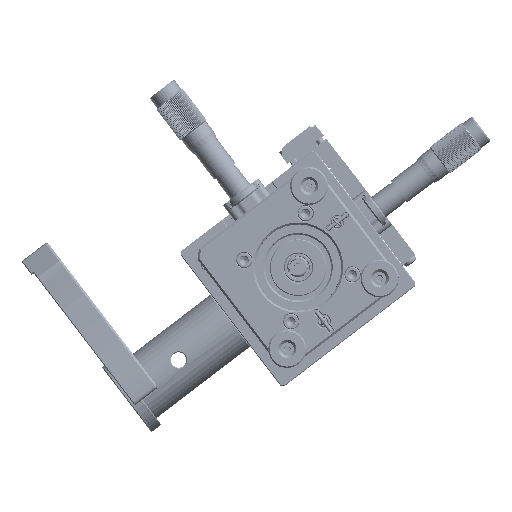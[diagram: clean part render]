
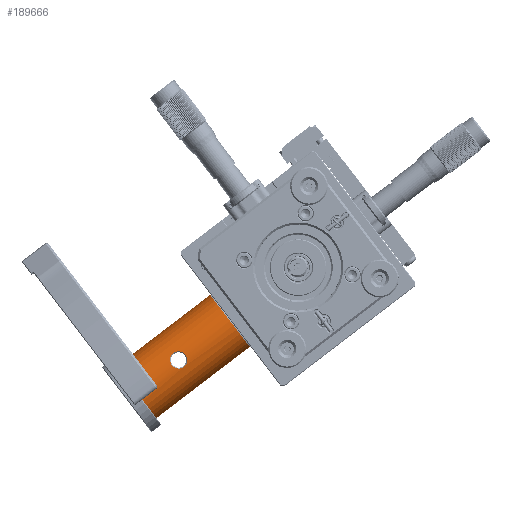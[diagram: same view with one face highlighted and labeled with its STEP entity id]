
A CAD part, top view. The second image highlights one B-rep face of the part: STEP entity #189666.
In plain terms, the highlighted cylindrical face has radius 12.7 mm (diameter 25.4 mm), a partial arc.
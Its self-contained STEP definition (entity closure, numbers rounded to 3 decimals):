
#185738=CARTESIAN_POINT('',(0.,4.8,0.));
#185739=DIRECTION('',(0.,1.,0.));
#185740=DIRECTION('',(-1.,0.,0.));
#185741=AXIS2_PLACEMENT_3D('',#185738,#185739,#185740);
#185757=DIRECTION('',(0.,-1.,0.));
#185758=VECTOR('',#185757,45.7);
#185759=CARTESIAN_POINT('',(-12.7,50.5,0.));
#185760=LINE('',#185759,#185758);
#185843=CARTESIAN_POINT('',(0.,50.5,0.));
#185844=DIRECTION('',(0.,-1.,0.));
#185845=DIRECTION('',(1.,0.,0.));
#185846=AXIS2_PLACEMENT_3D('',#185843,#185844,#185845);
#185848=CARTESIAN_POINT('',(0.,50.5,0.));
#185849=DIRECTION('',(0.,-1.,0.));
#185850=DIRECTION('',(0.,0.,1.));
#185851=AXIS2_PLACEMENT_3D('',#185848,#185849,#185850);
#185857=DIRECTION('',(0.,-1.,0.));
#185858=VECTOR('',#185857,45.7);
#185859=CARTESIAN_POINT('',(12.7,50.5,0.));
#185860=LINE('',#185859,#185858);
#185861=CARTESIAN_POINT('',(3.38,25.4,
12.242));
#185862=CARTESIAN_POINT('',(3.381,25.613,
12.242));
#185863=CARTESIAN_POINT('',(3.338,26.039,
12.254));
#185864=CARTESIAN_POINT('',(3.138,26.692,
12.307));
#185865=CARTESIAN_POINT('',(2.785,27.311,
12.393));
#185866=CARTESIAN_POINT('',(2.334,27.819,
12.487));
#185867=CARTESIAN_POINT('',(1.756,28.25,
12.583));
#185868=CARTESIAN_POINT('',(1.096,28.548,
12.659));
#185869=CARTESIAN_POINT('',(0.392,28.702,
12.701));
#185870=CARTESIAN_POINT('',(-0.322,28.709,
12.703));
#185871=CARTESIAN_POINT('',(-1.021,28.571,
12.665));
#185872=CARTESIAN_POINT('',(-1.676,28.294,
12.594));
#185873=CARTESIAN_POINT('',(-2.268,27.88,
12.5));
#185874=CARTESIAN_POINT('',(-2.75,27.361,
12.401));
#185875=CARTESIAN_POINT('',(-3.123,26.731,
12.311));
#185876=CARTESIAN_POINT('',(-3.337,26.052,
12.254));
#185877=CARTESIAN_POINT('',(-3.381,25.617,
12.242));
#185878=CARTESIAN_POINT('',(-3.38,25.4,
12.242));
#185880=CARTESIAN_POINT('',(-3.38,25.4,
12.242));
#185881=CARTESIAN_POINT('',(-3.381,25.187,
12.242));
#185882=CARTESIAN_POINT('',(-3.338,24.761,
12.254));
#185883=CARTESIAN_POINT('',(-3.138,24.108,
12.307));
#185884=CARTESIAN_POINT('',(-2.785,23.489,12.393));
#185885=CARTESIAN_POINT('',(-2.334,22.981,
12.487));
#185886=CARTESIAN_POINT('',(-1.756,22.55,
12.583));
#185887=CARTESIAN_POINT('',(-1.096,22.252,
12.659));
#185888=CARTESIAN_POINT('',(-0.392,22.098,
12.701));
#185889=CARTESIAN_POINT('',(0.322,22.091,
12.703));
#185890=CARTESIAN_POINT('',(1.021,22.229,
12.665));
#185891=CARTESIAN_POINT('',(1.676,22.506,
12.594));
#185892=CARTESIAN_POINT('',(2.268,22.92,
12.5));
#185893=CARTESIAN_POINT('',(2.75,23.439,
12.401));
#185894=CARTESIAN_POINT('',(3.123,24.069,
12.311));
#185895=CARTESIAN_POINT('',(3.337,24.748,
12.254));
#185896=CARTESIAN_POINT('',(3.381,25.183,
12.242));
#185897=CARTESIAN_POINT('',(3.38,25.4,
12.242));
#189276=CARTESIAN_POINT('',(12.7,4.8,0.));
#189277=CARTESIAN_POINT('',(-12.7,4.8,0.));
#189278=VERTEX_POINT('',#189276);
#189279=VERTEX_POINT('',#189277);
#189281=CARTESIAN_POINT('',(12.7,50.5,0.));
#189283=VERTEX_POINT('',#189281);
#189284=CARTESIAN_POINT('',(-12.7,50.5,0.));
#189285=VERTEX_POINT('',#189284);
#189419=CARTESIAN_POINT('',(0.,50.5,12.7));
#189420=VERTEX_POINT('',#189419);
#189421=VERTEX_POINT('',#185861);
#189422=VERTEX_POINT('',#185878);
#189648=CARTESIAN_POINT('',(0.,4.8,0.));
#189649=DIRECTION('',(0.,1.,0.));
#189650=DIRECTION('',(1.,0.,0.));
#189651=AXIS2_PLACEMENT_3D('',#189648,#189649,#189650);
#189652=CYLINDRICAL_SURFACE('',#189651,12.7);
#189653=ORIENTED_EDGE('',*,*,#189642,.F.);
#189654=ORIENTED_EDGE('',*,*,#189640,.F.);
#189655=ORIENTED_EDGE('',*,*,#189583,.T.);
#189656=ORIENTED_EDGE('',*,*,#189552,.F.);
#189657=ORIENTED_EDGE('',*,*,#189580,.F.);
#189658=EDGE_LOOP('',(#189653,#189654,#189655,#189656,#189657));
#189659=FACE_OUTER_BOUND('',#189658,.F.);
#189661=ORIENTED_EDGE('',*,*,#189660,.T.);
#189663=ORIENTED_EDGE('',*,*,#189662,.T.);
#189664=EDGE_LOOP('',(#189661,#189663));
#189665=FACE_BOUND('',#189664,.F.);
#189666=ADVANCED_FACE('',(#189659,#189665),#189652,.T.);
#185742=CIRCLE('',#185741,12.7);
#185847=CIRCLE('',#185846,12.7);
#185852=CIRCLE('',#185851,12.7);
#185879=B_SPLINE_CURVE_WITH_KNOTS('',3,(#185861,#185862,#185863,#185864,#185865,
#185866,#185867,#185868,#185869,#185870,#185871,#185872,#185873,#185874,#185875,
#185876,#185877,#185878),.UNSPECIFIED.,.F.,.F.,(4,1,1,1,1,1,1,1,1,1,1,1,1,1,1,
4),(0.,0.067,0.133,0.2,0.267,
0.333,0.4,0.467,0.533,0.6,
0.667,0.733,0.8,0.867,0.933,
1.),.UNSPECIFIED.);
#185898=B_SPLINE_CURVE_WITH_KNOTS('',3,(#185880,#185881,#185882,#185883,#185884,
#185885,#185886,#185887,#185888,#185889,#185890,#185891,#185892,#185893,#185894,
#185895,#185896,#185897),.UNSPECIFIED.,.F.,.F.,(4,1,1,1,1,1,1,1,1,1,1,1,1,1,1,
4),(0.,0.067,0.133,0.2,0.267,
0.333,0.4,0.467,0.533,0.6,
0.667,0.733,0.8,0.867,0.933,
1.),.UNSPECIFIED.);
#189552=EDGE_CURVE('',#189279,#189278,#185742,.T.);
#189580=EDGE_CURVE('',#189285,#189279,#185760,.T.);
#189583=EDGE_CURVE('',#189283,#189278,#185860,.T.);
#189640=EDGE_CURVE('',#189283,#189420,#185847,.T.);
#189642=EDGE_CURVE('',#189420,#189285,#185852,.T.);
#189660=EDGE_CURVE('',#189421,#189422,#185879,.T.);
#189662=EDGE_CURVE('',#189422,#189421,#185898,.T.);
